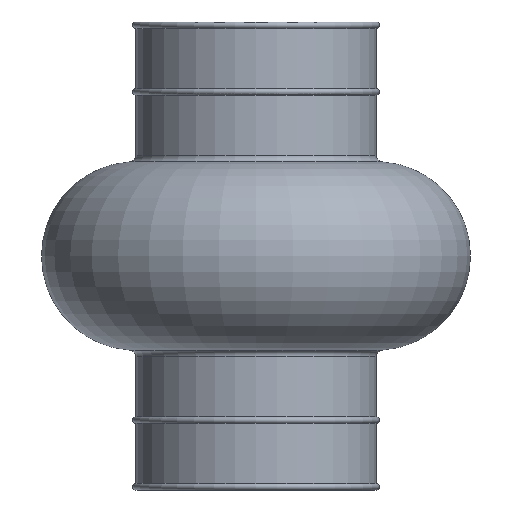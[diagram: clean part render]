
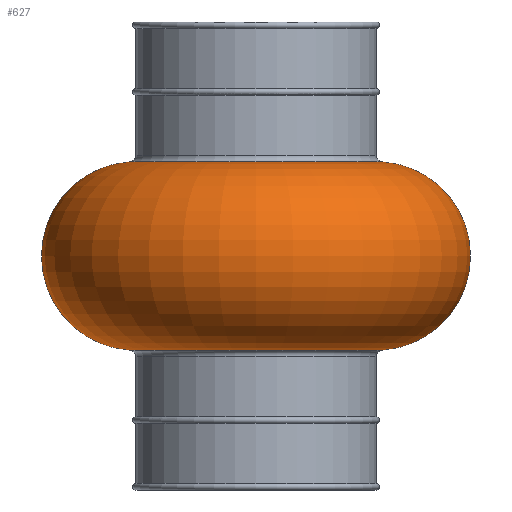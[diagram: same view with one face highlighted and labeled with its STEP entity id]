
A CAD part, left-side view. The second image highlights one B-rep face of the part: STEP entity #627.
In plain terms, the highlighted toroidal (fillet/blend) face has major radius 18.5 mm and minor radius 14.5 mm.
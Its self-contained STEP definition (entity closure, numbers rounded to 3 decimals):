
#1 = CARTESIAN_POINT ( 'NONE',  ( 0., 18.5, 0. ) ) ;
#5 = FACE_OUTER_BOUND ( 'NONE', #657, .T. ) ;
#51 = AXIS2_PLACEMENT_3D ( 'NONE', #481, #626, #148 ) ;
#54 = AXIS2_PLACEMENT_3D ( 'NONE', #433, #97, #298 ) ;
#76 = CARTESIAN_POINT ( 'NONE',  ( 0., 19.435, -14.47 ) ) ;
#88 = DIRECTION ( 'NONE',  ( 0., 1., 0. ) ) ;
#89 = CARTESIAN_POINT ( 'NONE',  ( 0., -19.435, 14.47 ) ) ;
#97 = DIRECTION ( 'NONE',  ( 0., 0., 1. ) ) ;
#125 = VERTEX_POINT ( 'NONE', #89 ) ;
#139 = ORIENTED_EDGE ( 'NONE', *, *, #683, .F. ) ;
#148 = DIRECTION ( 'NONE',  ( 0., 1., 0. ) ) ;
#207 = ORIENTED_EDGE ( 'NONE', *, *, #303, .T. ) ;
#218 = DIRECTION ( 'NONE',  ( 0., 0., -1. ) ) ;
#258 = CIRCLE ( 'NONE', #810, 19.435 ) ;
#261 = VERTEX_POINT ( 'NONE', #780 ) ;
#283 = CARTESIAN_POINT ( 'NONE',  ( 0., -19.435, -14.47 ) ) ;
#298 = DIRECTION ( 'NONE',  ( 0., -1., 0. ) ) ;
#303 = EDGE_CURVE ( 'NONE', #497, #636, #689, .T. ) ;
#344 = DIRECTION ( 'NONE',  ( 0., 0., 1. ) ) ;
#433 = CARTESIAN_POINT ( 'NONE',  ( 0., 0., -14.47 ) ) ;
#464 = DIRECTION ( 'NONE',  ( -1., 0., 0. ) ) ;
#481 = CARTESIAN_POINT ( 'NONE',  ( 0., 0., 0. ) ) ;
#491 = CARTESIAN_POINT ( 'NONE',  ( 0., 0., 14.47 ) ) ;
#497 = VERTEX_POINT ( 'NONE', #76 ) ;
#553 = ORIENTED_EDGE ( 'NONE', *, *, #606, .T. ) ;
#577 = EDGE_CURVE ( 'NONE', #261, #497, #597, .T. ) ;
#597 = CIRCLE ( 'NONE', #737, 14.5 ) ;
#606 = EDGE_CURVE ( 'NONE', #125, #261, #258, .T. ) ;
#620 = CARTESIAN_POINT ( 'NONE',  ( 0., -18.5, 0. ) ) ;
#626 = DIRECTION ( 'NONE',  ( 0., 0., -1. ) ) ;
#627 = ADVANCED_FACE ( 'NONE', ( #5 ), #687, .T. ) ;
#636 = VERTEX_POINT ( 'NONE', #283 ) ;
#657 = EDGE_LOOP ( 'NONE', ( #139, #553, #675, #207 ) ) ;
#675 = ORIENTED_EDGE ( 'NONE', *, *, #577, .T. ) ;
#682 = DIRECTION ( 'NONE',  ( 0., 1., 0. ) ) ;
#683 = EDGE_CURVE ( 'NONE', #125, #636, #807, .T. ) ;
#687 = TOROIDAL_SURFACE ( 'NONE', #51, 18.5, 14.5 ) ;
#689 = CIRCLE ( 'NONE', #54, 19.435 ) ;
#737 = AXIS2_PLACEMENT_3D ( 'NONE', #1, #464, #344 ) ;
#748 = AXIS2_PLACEMENT_3D ( 'NONE', #620, #821, #682 ) ;
#780 = CARTESIAN_POINT ( 'NONE',  ( 0., 19.435, 14.47 ) ) ;
#807 = CIRCLE ( 'NONE', #748, 14.5 ) ;
#810 = AXIS2_PLACEMENT_3D ( 'NONE', #491, #218, #88 ) ;
#821 = DIRECTION ( 'NONE',  ( 1., 0., 0. ) ) ;
